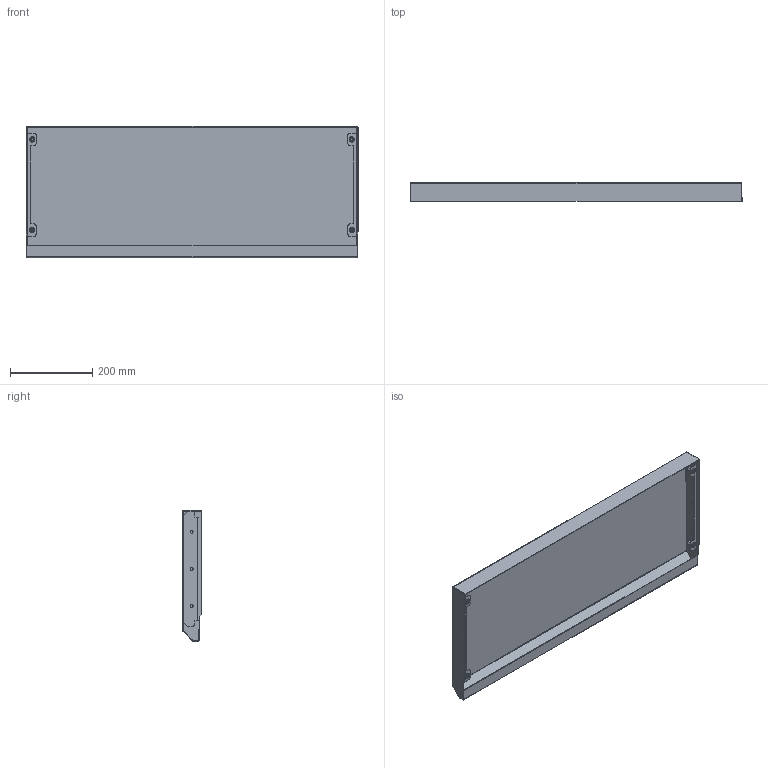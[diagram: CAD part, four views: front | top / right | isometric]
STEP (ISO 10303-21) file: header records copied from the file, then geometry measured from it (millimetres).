
FILE_DESCRIPTION (( 'STEP AP214' ), '1' );
FILE_NAME ('RKC 80.30 S ﾊ鰀靍裲 鈞隆.STEP', '2023-07-29T11:56:42', ( '' ), ( '' ), 'SwSTEP 2.0', 'SolidWorks 2019', '' );
FILE_SCHEMA (( 'AUTOMOTIVE_DESIGN' ));
Length unit declared in the file: millimetre
Products named in the file (4): RKC 80.30 S ﾊ鰀靍裲 鈞隆; Çàêëåïêà Ì6 ãàå÷íàÿ Rivkle 2335 106 0030_1,4; RKC Y.Z 01.001 S 扻踑謥獥RKC 80.30 S; RKC Z 01.002 S 扰鍙欙樥燲RKC 30
Assembly tree (7 placements, depth 2):
  RKC 80.30 S ﾊ鰀靍裲 鈞隆
    RKC Y.Z 01.001 S 扻踑謥獥RKC 80.30 S
    RKC Z 01.002 S 扰鍙欙樥燲RKC 30  x2
    Çàêëåïêà Ì6 ãàå÷íàÿ Rivkle 2335 106 0030_1,4  x4
Bounding box: 805 x 45 x 318 mm (x, y, z)
Volume: 576382.3 mm3; surface area: 774159.9 mm2
Topology: 7 solids, 7 shells, 684 faces, 1658 edges, 1004 vertices
Faces by surface type: cylinder 218, plane 200, bspline 162, torus 64, sphere 24, cone 16
Entity records: 10696 total; most frequent: CARTESIAN_POINT 3726, ORIENTED_EDGE 1484, DIRECTION 1358, EDGE_CURVE 742, AXIS2_PLACEMENT_3D 508, VERTEX_POINT 456, VECTOR 342, LINE 342
